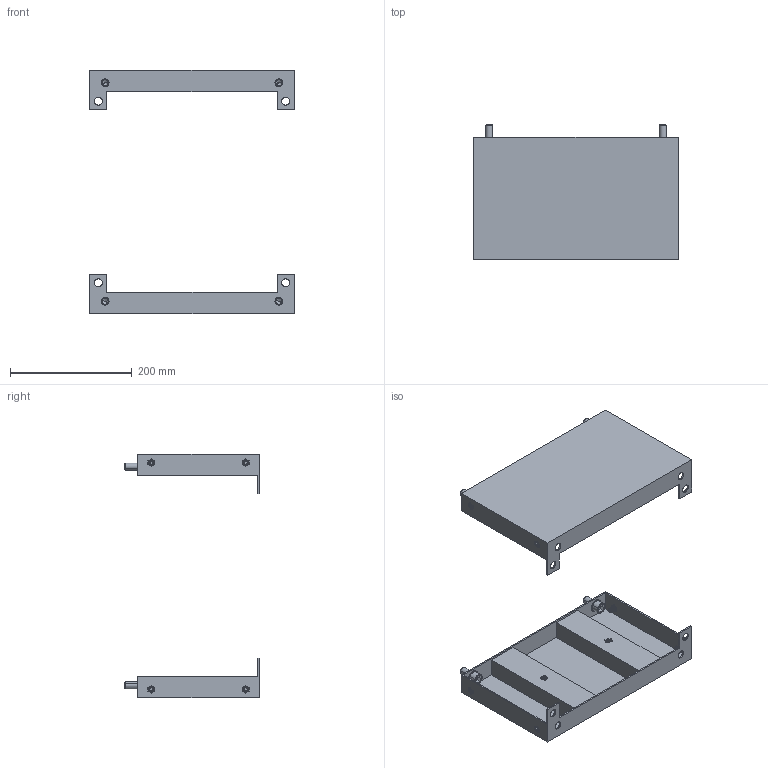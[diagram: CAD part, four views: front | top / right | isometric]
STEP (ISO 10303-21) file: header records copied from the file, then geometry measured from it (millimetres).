
FILE_DESCRIPTION (( 'STEP AP203' ), '1' );
FILE_NAME ('R6PLB40-200 H=400 SIMPLE.STEP', '2026-07-22T11:06:15', ( '' ), ( '' ), 'SwSTEP 2.0', 'SolidWorks 2022', '' );
FILE_SCHEMA (( 'CONFIG_CONTROL_DESIGN' ));
Length unit declared in the file: millimetre
Products named in the file (8): 12 DIN 6798 A Zinc; РГМЦ.RB.3309.00.01.0 simple_-06; РГМЦ.RB.3309.00.02.0 simple_-01; M6 MGS-MPO-0635_thread; R6PLB40-200 H=400 SIMPLE; M12x25 DIN 912 HX cl.8,8 Zinc_stright; РГМЦ.RB.3309.00.00.0 СБ SIMPLE 04-07_-06; M6 MGS-MPO-0635_straight
Assembly tree (19 placements, depth 3):
  R6PLB40-200 H=400 SIMPLE
    РГМЦ.RB.3309.00.00.0 СБ SIMPLE 04-07_-06  x2
      РГМЦ.RB.3309.00.01.0 simple_-06
      M6 MGS-MPO-0635_thread
      РГМЦ.RB.3309.00.02.0 simple_-01
      M6 MGS-MPO-0635_straight
    12 DIN 6798 A Zinc  x4
    M12x25 DIN 912 HX cl.8,8 Zinc_stright  x4
Bounding box: 336.7 x 221.5 x 400 mm (x, y, z)
Volume: 741076.6 mm3; surface area: 606785.8 mm2
Topology: 26 solids, 26 shells, 1468 faces, 3828 edges, 2188 vertices
Faces by surface type: plane 556, cylinder 544, bspline 152, sphere 144, cone 40, torus 32
Entity records: 13372 total; most frequent: CARTESIAN_POINT 5039, ORIENTED_EDGE 1540, DIRECTION 1409, EDGE_CURVE 770, VERTEX_POINT 482, AXIS2_PLACEMENT_3D 473, LINE 463, VECTOR 463
